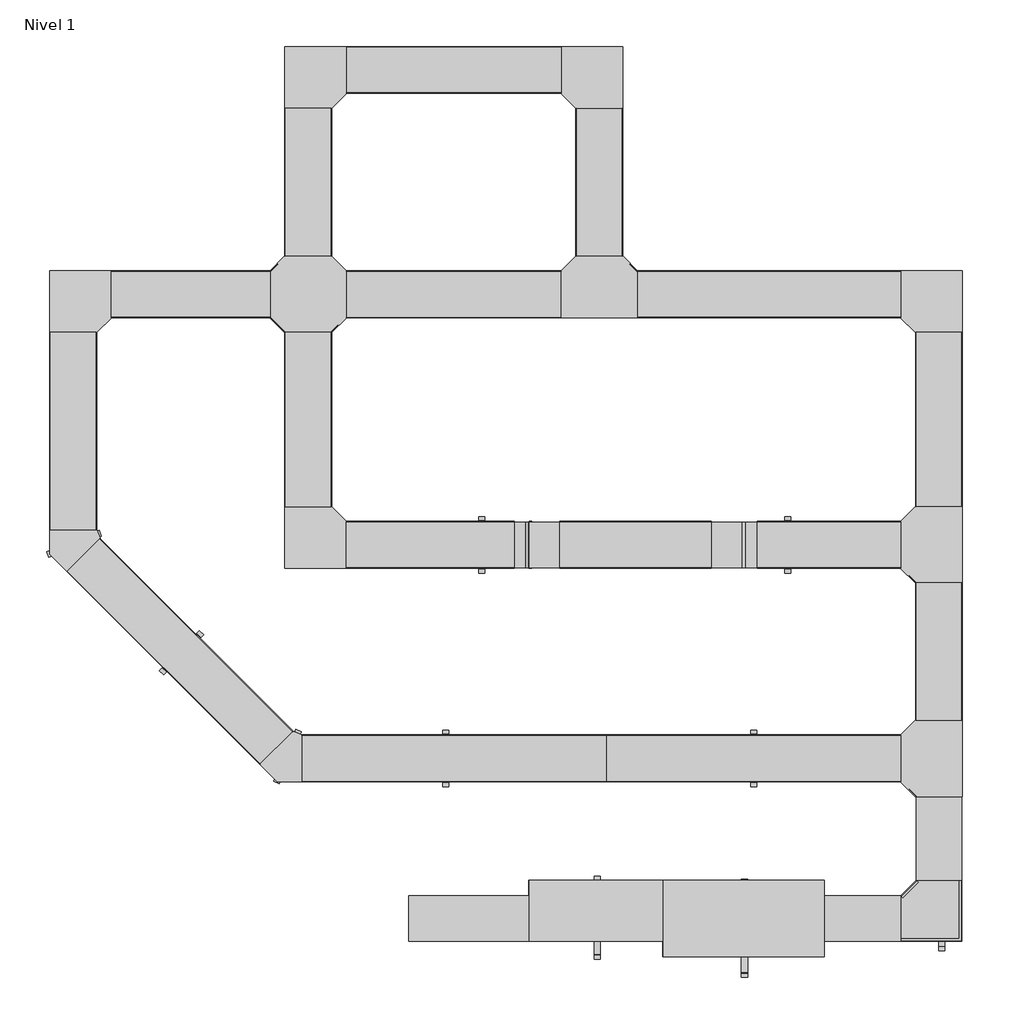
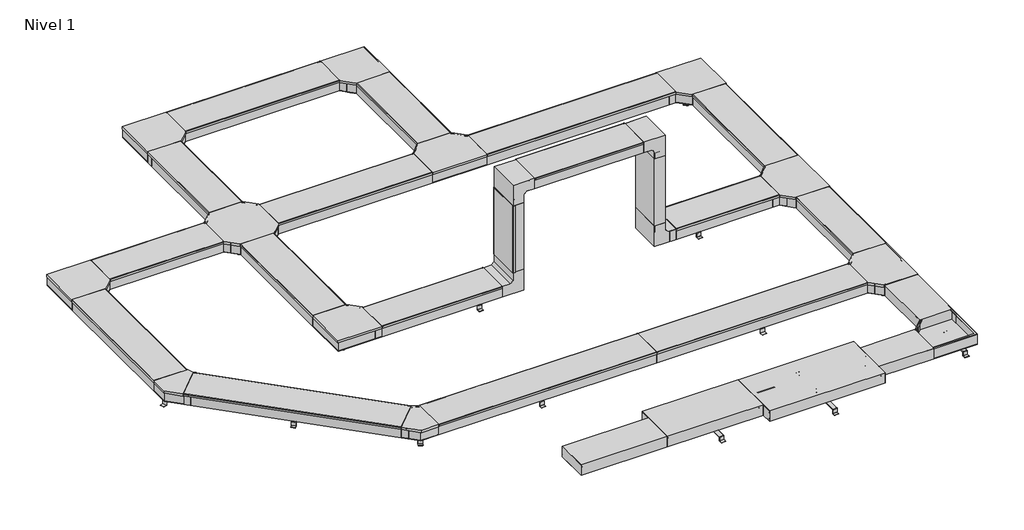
# One storey: 51 proxies, 23 cable carrier segments, 19 cable carrier fittings.
"""IFC4 building model written with IfcOpenShell, lengths in millimetres."""

from ifc_helpers import new_model, si_unit, frame, origin, place, context, project, spatial, polyline, outline, extrude, transform, mapped, element, save
from components import generic_models_886ef908, generic_models_77ba660b, generic_models_34b2c739, generic_models_44321f8a, generic_models_95577306, generic_models_282451d4, generic_models_4bbc0010, generic_models_9f40d4b4, generic_models_63b5237f, generic_models_2ab8ae52, generic_models_c6466a9b, generic_models_c4d3e10e, generic_models_18c6242b, generic_models_39329576, generic_models_28185427, generic_models_0fb2b5c2, generic_models_94ff4f47, generic_models_3f045df5, generic_models_f9c9fb11, generic_models_84cd7154, generic_models_ec9d9685, generic_models_7406f675, generic_models_717cf7ea, generic_models_6d804a78, cable_carrier_fitting_8b7974b9, cable_carrier_fitting_2a8efc73, cable_carrier_fitting_4e509324, cable_carrier_fitting_665ff240, cable_carrier_fitting_8bc6223d, cable_carrier_fitting_3787a0c5, cable_carrier_fitting_d7bdf130, cable_carrier_fitting_292abf4f

model = new_model("IFC4")

# Units and contexts
model_context = context("Model", 3, world=origin())
ifc_project = project(units=[si_unit("LENGTHUNIT", "METRE", prefix="MILLI")], contexts=[model_context])

# Site, building, storey
site = spatial("IfcSite", under=ifc_project)
building = spatial("IfcBuilding", under=site)
storey = spatial("IfcBuildingStorey", under=building, Name="Nivel 1", Elevation=0.0)

# Proxies
placement = place(None, origin())
generic_models_shape = generic_models_886ef908(model_context)
element("IfcBuildingElementProxy", 1, Name="Cable_Tray_Cover_TWT_Basorcanal : Basorcanal TWT 300", ObjectType="Cable_Tray_Cover_TWT_Basorcanal : Basorcanal TWT 300", at=placement, inside=storey, context=model_context, shape_type="MappedRepresentation", body=[
    mapped(generic_models_shape, transform((-8541.703371, -2707.1938626, 50.0), x_axis=(0.0, 1.0, 0.0), y_axis=(-1.0, 0.0, 0.0), z_axis=(0.0, 0.0, 1.0))),
])
generic_models_2_shape = generic_models_77ba660b(model_context)
element("IfcBuildingElementProxy", 2, Name="Cable_Tray_Divider_Profile_PSWT_Basorcanal : Basorcanal PSWT 100", ObjectType="Cable_Tray_Divider_Profile_PSWT_Basorcanal : Basorcanal PSWT 100", at=placement, inside=storey, context=model_context, shape_type="MappedRepresentation", body=[
    mapped(generic_models_2_shape, transform((-7121.7787219, -3730.0234794, -49.9762913), x_axis=(0.0, 1.0, 0.0), y_axis=(-1.0, 0.0, 0.0), z_axis=(0.0, 0.0, 1.0))),
])
generic_models_3_shape = generic_models_34b2c739(model_context)
element("IfcBuildingElementProxy", 3, Name="Cable_Tray_FinalCover_TFWT_Basorcanal : Basorcanal TFWT 300x100", ObjectType="Cable_Tray_FinalCover_TFWT_Basorcanal : Basorcanal TFWT 300x100", at=placement, inside=storey, context=model_context, shape_type="MappedRepresentation", body=[
    mapped(generic_models_3_shape, transform((-9839.9965544, -3758.1045835, 0.0237087), x_axis=(0.0, 1.0, 0.0), y_axis=(0.0, 0.0, -1.0), z_axis=(-1.0, 0.0, 0.0))),
])
generic_models_4_shape = generic_models_44321f8a(model_context)
element("IfcBuildingElementProxy", 4, Name="Cable_Tray_Support_SV_Basorsupport : Basorsupport SV 300", ObjectType="Cable_Tray_Support_SV_Basorsupport : Basorsupport SV 300", at=placement, inside=storey, context=model_context, shape_type="MappedRepresentation", body=[
    mapped(generic_models_4_shape, transform((-7574.75615, -2707.1939339, -50.0), x_axis=(0.0, 1.0, 0.0), y_axis=(1.0, 0.0, 0.0), z_axis=(0.0, 0.0, -1.0))),
])
element("IfcBuildingElementProxy", 5, Name="Cable_Tray_Support_SV_Basorsupport : Basorsupport SV 300", ObjectType="Cable_Tray_Support_SV_Basorsupport : Basorsupport SV 300", at=placement, inside=storey, context=model_context, shape_type="MappedRepresentation", body=[
    mapped(generic_models_4_shape, transform((-12038.7811105, -1297.778645, -49.9612725), x_axis=(0.9271838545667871, 0.3746065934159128, 0.0), y_axis=(0.3746065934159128, -0.9271838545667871, 0.0), z_axis=(0.0, 0.0, -1.0))),
])
element("IfcBuildingElementProxy", 6, Name="Cable_Tray_Support_SV_Basorsupport : Basorsupport SV 300", ObjectType="Cable_Tray_Support_SV_Basorsupport : Basorsupport SV 300", at=placement, inside=storey, context=model_context, shape_type="MappedRepresentation", body=[
    mapped(generic_models_4_shape, transform((-10636.8845347, -2695.1077531, -50.0), x_axis=(-0.3907311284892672, -0.9205048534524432, 0.0), y_axis=(-0.9205048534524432, 0.3907311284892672, 0.0), z_axis=(0.0, 0.0, -1.0))),
])
element("IfcBuildingElementProxy", 7, Name="Cable_Tray_Support_SV_Basorsupport : Basorsupport SV 300", ObjectType="Cable_Tray_Support_SV_Basorsupport : Basorsupport SV 300", at=placement, inside=storey, context=model_context, shape_type="MappedRepresentation", body=[
    mapped(generic_models_4_shape, transform((-8588.3507544, 350.3183281, -49.9523171), x_axis=(0.999999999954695, 1.2811934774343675e-10, 9.518941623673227e-06), y_axis=(0.0, -0.9999999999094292, 1.3458912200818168e-05), z_axis=(9.518941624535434e-06, -1.3458912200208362e-05, -0.9999999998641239))),
])
element("IfcBuildingElementProxy", 8, Name="Cable_Tray_Support_SV_Basorsupport : Basorsupport SV 300", ObjectType="Cable_Tray_Support_SV_Basorsupport : Basorsupport SV 300", at=placement, inside=storey, context=model_context, shape_type="MappedRepresentation", body=[
    mapped(generic_models_4_shape, transform((-8620.9537542, 1781.8174496, -49.9715835), x_axis=(0.7071067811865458, 0.7071067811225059, -9.516888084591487e-06), y_axis=(0.7071067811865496, -0.7071067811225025, 9.51688808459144e-06), z_axis=(0.0, -1.3458912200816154e-05, -0.9999999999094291))),
])
element("IfcBuildingElementProxy", 9, Name="Cable_Tray_Support_SV_Basorsupport : Basorsupport SV 300", ObjectType="Cable_Tray_Support_SV_Basorsupport : Basorsupport SV 300", at=placement, inside=storey, context=model_context, shape_type="MappedRepresentation", body=[
    mapped(generic_models_4_shape, transform((-10454.7397424, 1782.4752404, -49.9730502), x_axis=(-0.7071067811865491, 0.707106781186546, 0.0), y_axis=(0.707106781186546, 0.7071067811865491, 0.0), z_axis=(0.0, 0.0, -1.0))),
])
element("IfcBuildingElementProxy", 10, Name="Cable_Tray_Support_SV_Basorsupport : Basorsupport SV 300", ObjectType="Cable_Tray_Support_SV_Basorsupport : Basorsupport SV 300", at=placement, inside=storey, context=model_context, shape_type="MappedRepresentation", body=[
    mapped(generic_models_4_shape, transform((-11998.3412792, 295.9394169, -50.0001797), x_axis=(-0.7071067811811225, 0.707106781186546, 2.770290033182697e-06), y_axis=(0.7071067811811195, 0.7071067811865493, -2.770290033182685e-06), z_axis=(-3.917781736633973e-06, 0.0, -0.9999999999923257))),
])
element("IfcBuildingElementProxy", 11, Name="Cable_Tray_Support_SV_Basorsupport : Basorsupport SV 300", ObjectType="Cable_Tray_Support_SV_Basorsupport : Basorsupport SV 300", at=placement, inside=storey, context=model_context, shape_type="MappedRepresentation", body=[
    mapped(generic_models_4_shape, transform((-7350.1252694, -1304.6405378, -49.9153599), x_axis=(0.0, -0.9999999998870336, -1.5031061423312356e-05), y_axis=(-1.0, 0.0, 0.0), z_axis=(0.0, 1.5031061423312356e-05, -0.9999999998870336))),
])
element("IfcBuildingElementProxy", 12, Name="Cable_Tray_Support_SV_Basorsupport : Basorsupport SV 300", ObjectType="Cable_Tray_Support_SV_Basorsupport : Basorsupport SV 300", at=placement, inside=storey, context=model_context, shape_type="MappedRepresentation", body=[
    mapped(generic_models_4_shape, transform((-6398.3977593, 294.8393651, -49.9316497), x_axis=(-0.7071067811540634, -0.7071067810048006, -1.7405991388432e-05), y_axis=(-0.707106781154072, 0.707106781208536, 3.851139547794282e-06), z_axis=(9.584727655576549e-06, 1.5031061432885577e-05, -0.9999999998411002))),
])
element("IfcBuildingElementProxy", 13, Name="Cable_Tray_Support_SV_Basorsupport : Basorsupport SV 300", ObjectType="Cable_Tray_Support_SV_Basorsupport : Basorsupport SV 300", at=placement, inside=storey, context=model_context, shape_type="MappedRepresentation", body=[
    mapped(generic_models_4_shape, transform((-6395.8500617, -2681.1000795, -51.9967904), x_axis=(0.7071067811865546, -0.7071067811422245, -7.916594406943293e-06), y_axis=(-0.7071067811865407, -0.7071067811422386, -7.916594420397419e-06), z_axis=(0.0, 1.1195755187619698e-05, -0.9999999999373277))),
])
element("IfcBuildingElementProxy", 14, Name="Cable_Tray_Support_SV_Basorsupport : Basorsupport SV 300", ObjectType="Cable_Tray_Support_SV_Basorsupport : Basorsupport SV 300", at=placement, inside=storey, context=model_context, shape_type="MappedRepresentation", body=[
    mapped(generic_models_4_shape, transform((-10455.1060974, -1269.5960354, -49.9730502), x_axis=(-0.707106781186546, -0.7071067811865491, 0.0), y_axis=(-0.7071067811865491, 0.707106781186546, 0.0), z_axis=(0.0, 0.0, -1.0))),
])
element("IfcBuildingElementProxy", 15, Name="Cable_Tray_Support_SV_Basorsupport : Basorsupport SV 300", ObjectType="Cable_Tray_Support_SV_Basorsupport : Basorsupport SV 300", at=placement, inside=storey, context=model_context, shape_type="MappedRepresentation", body=[
    mapped(generic_models_4_shape, transform((-6355.3907563, -1309.2919256, -49.9205519), x_axis=(0.0, 0.9999999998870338, 1.5031061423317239e-05), y_axis=(0.9999999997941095, 3.0502279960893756e-10, -2.029241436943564e-05), z_axis=(-2.029241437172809e-05, 1.503106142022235e-05, -0.9999999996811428))),
])
element("IfcBuildingElementProxy", 16, Name="Cable_Tray_Support_SV_Basorsupport : Basorsupport SV 300", ObjectType="Cable_Tray_Support_SV_Basorsupport : Basorsupport SV 300", at=placement, inside=storey, context=model_context, shape_type="MappedRepresentation", body=[
    mapped(generic_models_4_shape, transform((-10497.2169481, 343.6637615, -49.9729709), x_axis=(0.0, -1.0000000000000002, 0.0), y_axis=(-0.9999999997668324, 0.0, -2.1594818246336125e-05), z_axis=(2.1594818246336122e-05, 0.0, -0.9999999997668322))),
])
element("IfcBuildingElementProxy", 17, Name="Cable_Tray_Support_SV_Basorsupport : Basorsupport SV 300", ObjectType="Cable_Tray_Support_SV_Basorsupport : Basorsupport SV 300", at=placement, inside=storey, context=model_context, shape_type="MappedRepresentation", body=[
    mapped(generic_models_4_shape, transform((-9360.1820856, -1304.6412884, -49.9730502), x_axis=(0.0, 1.0, 0.0), y_axis=(1.0, 0.0, 0.0), z_axis=(0.0, 0.0, -1.0))),
])
element("IfcBuildingElementProxy", 18, Name="Cable_Tray_Support_SV_Basorsupport : Basorsupport SV 300", ObjectType="Cable_Tray_Support_SV_Basorsupport : Basorsupport SV 300", at=placement, inside=storey, context=model_context, shape_type="MappedRepresentation", body=[
    mapped(generic_models_4_shape, transform((-9597.9930642, -2706.7320603, -50.0), x_axis=(0.0, 1.0, 0.0), y_axis=(1.0, 0.0, 0.0), z_axis=(0.0, 0.0, -1.0))),
])
element("IfcBuildingElementProxy", 19, Name="Cable_Tray_Support_SV_Basorsupport : Basorsupport SV 300", ObjectType="Cable_Tray_Support_SV_Basorsupport : Basorsupport SV 300", at=placement, inside=storey, context=model_context, shape_type="MappedRepresentation", body=[
    mapped(generic_models_4_shape, transform((-11331.69498, -2012.6822275, -49.9612725), x_axis=(-0.7071067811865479, -0.7071067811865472, 0.0), y_axis=(-0.7071067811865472, 0.7071067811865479, 0.0), z_axis=(0.0, 0.0, -1.0))),
])
element("IfcBuildingElementProxy", 20, Name="Cable_Tray_Support_SV_Basorsupport : Basorsupport SV 300", ObjectType="Cable_Tray_Support_SV_Basorsupport : Basorsupport SV 300", at=placement, inside=storey, context=model_context, shape_type="MappedRepresentation", body=[
    mapped(generic_models_4_shape, transform((-6339.4606524, -3784.0082348, -49.958004), x_axis=(0.0, -1.0, 0.0), y_axis=(-0.9999999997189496, 0.0, -2.3708666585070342e-05), z_axis=(2.3708666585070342e-05, 0.0, -0.9999999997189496))),
])
generic_models_5_shape = generic_models_95577306(model_context)
element("IfcBuildingElementProxy", 21, Name="Cable_Tray_Support_SV_Basorsupport : Basorsupport SV 400", ObjectType="Cable_Tray_Support_SV_Basorsupport : Basorsupport SV 400", at=placement, inside=storey, context=model_context, shape_type="MappedRepresentation", body=[
    mapped(generic_models_5_shape, transform((-8602.314625, -3752.5055585, -49.9762913), x_axis=(0.0, -1.0, 0.0), y_axis=(-1.0, 0.0, 0.0), z_axis=(0.0, 0.0, -1.0))),
])
generic_models_6_shape = generic_models_282451d4(model_context)
element("IfcBuildingElementProxy", 22, Name="Cable_Tray_Support_SV_Basorsupport : Basorsupport SV 500", ObjectType="Cable_Tray_Support_SV_Basorsupport : Basorsupport SV 500", at=placement, inside=storey, context=model_context, shape_type="MappedRepresentation", body=[
    mapped(generic_models_6_shape, transform((-7635.2115297, -3823.5680524, -49.9762913), x_axis=(0.0, -1.0, 0.0), y_axis=(-1.0, 0.0, 0.0), z_axis=(0.0, 0.0, -1.0))),
])
generic_models_7_shape = generic_models_4bbc0010(model_context)
element("IfcBuildingElementProxy", 23, Name="Horizontal Bend_Cover_TCPWT_Basorcanal : Basorcanal TCPWT 300", ObjectType="Horizontal Bend_Cover_TCPWT_Basorcanal : Basorcanal TCPWT 300", at=placement, inside=storey, context=model_context, shape_type="MappedRepresentation", body=[
    mapped(generic_models_7_shape, transform((-8738.3512303, 1564.0763466, 50.031347), x_axis=(0.0, 0.9999999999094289, -1.3458912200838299e-05), y_axis=(-1.0, 0.0, 0.0), z_axis=(0.0, 1.3458912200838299e-05, 0.9999999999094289))),
])
element("IfcBuildingElementProxy", 24, Name="Horizontal Bend_Cover_TCPWT_Basorcanal : Basorcanal TCPWT 300", ObjectType="Horizontal Bend_Cover_TCPWT_Basorcanal : Basorcanal TCPWT 300", at=placement, inside=storey, context=model_context, shape_type="MappedRepresentation", body=[
    mapped(generic_models_7_shape, transform((-10250.8907203, 1664.0756733, 50.0269498), x_axis=(-1.0, 0.0, 0.0), y_axis=(0.0, -1.0, 0.0), z_axis=(0.0, 0.0, 1.0))),
])
element("IfcBuildingElementProxy", 25, Name="Horizontal Bend_Cover_TCPWT_Basorcanal : Basorcanal TCPWT 300", ObjectType="Horizontal Bend_Cover_TCPWT_Basorcanal : Basorcanal TCPWT 300", at=placement, inside=storey, context=model_context, shape_type="MappedRepresentation", body=[
    mapped(generic_models_7_shape, transform((-6507.8039157, 90.3182495, 50.0642275), x_axis=(0.0, 0.9999999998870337, 1.5031061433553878e-05), y_axis=(-0.9999999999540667, 1.44070360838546e-10, -9.58472765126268e-06), z_axis=(-9.584727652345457e-06, -1.5031061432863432e-05, 0.9999999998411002))),
])
element("IfcBuildingElementProxy", 26, Name="Horizontal Bend_Cover_TCPWT_Basorcanal : Basorcanal TCPWT 300", ObjectType="Horizontal Bend_Cover_TCPWT_Basorcanal : Basorcanal TCPWT 300", at=placement, inside=storey, context=model_context, shape_type="MappedRepresentation", body=[
    mapped(generic_models_7_shape, transform((-10350.8907203, -1054.6412884, 50.0269498), x_axis=(0.0, -1.0, 0.0), y_axis=(1.0, 0.0, 0.0), z_axis=(0.0, 0.0, 1.0))),
])
element("IfcBuildingElementProxy", 27, Name="Horizontal Bend_Cover_TCPWT_Basorcanal : Basorcanal TCPWT 300", ObjectType="Horizontal Bend_Cover_TCPWT_Basorcanal : Basorcanal TCPWT 300", at=placement, inside=storey, context=model_context, shape_type="MappedRepresentation", body=[
    mapped(generic_models_7_shape, transform((-11794.2214184, 190.3190011, 49.9990206), x_axis=(-0.9999999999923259, 0.0, 3.917781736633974e-06), y_axis=(0.0, -1.0000000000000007, 0.0), z_axis=(3.917781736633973e-06, 0.0, 0.9999999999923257))),
])
generic_models_8_shape = generic_models_9f40d4b4(model_context)
element("IfcBuildingElementProxy", 28, Name="Horizontal Tee_Cover_TTEWT_Basorcanal : Basorcanal TTEWT 300", ObjectType="Horizontal Tee_Cover_TTEWT_Basorcanal : Basorcanal TTEWT 300", at=placement, inside=storey, context=model_context, shape_type="MappedRepresentation", body=[
    mapped(generic_models_8_shape, transform((-8838.3517062, 490.3197453, 50.0435616), x_axis=(0.9999999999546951, 0.0, 9.518941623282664e-06), y_axis=(1.416970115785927e-10, 0.9999999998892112, -1.4885509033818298e-05), z_axis=(-9.518941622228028e-06, 1.488550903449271e-05, 0.9999999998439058))),
])
element("IfcBuildingElementProxy", 29, Name="Horizontal Tee_Cover_TTEWT_Basorcanal : Basorcanal TTEWT 300", ObjectType="Horizontal Tee_Cover_TTEWT_Basorcanal : Basorcanal TTEWT 300", at=placement, inside=storey, context=model_context, shape_type="MappedRepresentation", body=[
    mapped(generic_models_8_shape, transform((-6507.8024253, -1554.6420408, 50.0788531), x_axis=(0.0, 0.9999999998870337, 1.5031061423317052e-05), y_axis=(-0.9999999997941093, -3.050136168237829e-10, 2.0292414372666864e-05), z_axis=(2.029241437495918e-05, -1.503106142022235e-05, 0.9999999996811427))),
])
element("IfcBuildingElementProxy", 30, Name="Horizontal Tee_Cover_TTEWT_Basorcanal : Basorcanal TTEWT 300", ObjectType="Horizontal Tee_Cover_TTEWT_Basorcanal : Basorcanal TTEWT 300", at=placement, inside=storey, context=model_context, shape_type="MappedRepresentation", body=[
    mapped(generic_models_8_shape, transform((-6507.8033703, -2957.194686, 50.0549362), x_axis=(0.0, 0.9999999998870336, 1.5031061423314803e-05), y_axis=(-0.999999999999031, -2.0920348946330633e-11, 1.3921041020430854e-06), z_axis=(1.3921041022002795e-06, -1.5031061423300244e-05, 0.9999999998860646))),
])
generic_models_9_shape = generic_models_63b5237f(model_context)
element("IfcBuildingElementProxy", 31, Name="Horizontal Cross_Cover_TCRWT_Basorcanal : Basorcanal TCRWT 300", ObjectType="Horizontal Cross_Cover_TCRWT_Basorcanal : Basorcanal TCRWT 300", at=placement, inside=storey, context=model_context, shape_type="MappedRepresentation", body=[
    mapped(generic_models_9_shape, transform((-10250.8918001, 590.3190011, 50.0323485), x_axis=(0.0, -1.0000000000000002, 0.0), y_axis=(0.9999999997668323, 0.0, 2.1594818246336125e-05), z_axis=(-2.1594818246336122e-05, 0.0, 0.9999999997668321))),
])
generic_models_10_shape = generic_models_2ab8ae52(model_context)
element("IfcBuildingElementProxy", 32, Name="Horizontal Bend_Cover_TCPWT45_Basorcanal : Basorcanal TCPWT45 300", ObjectType="Horizontal Bend_Cover_TCPWT45_Basorcanal : Basorcanal TCPWT45 300", at=placement, inside=storey, context=model_context, shape_type="MappedRepresentation", body=[
    mapped(generic_models_10_shape, transform((-11894.2216592, -1204.68107, 50.0387275), x_axis=(0.0, -0.9999999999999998, 0.0), y_axis=(0.9999999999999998, 0.0, 0.0), z_axis=(0.0, 0.0, 1.0))),
])
element("IfcBuildingElementProxy", 33, Name="Horizontal Bend_Cover_TCPWT45_Basorcanal : Basorcanal TCPWT45 300", ObjectType="Horizontal Bend_Cover_TCPWT45_Basorcanal : Basorcanal TCPWT45 300", at=placement, inside=storey, context=model_context, shape_type="MappedRepresentation", body=[
    mapped(generic_models_10_shape, transform((-10602.7139173, -2531.9247432, 50.0), x_axis=(0.7071067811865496, -0.7071067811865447, 0.0), y_axis=(0.7071067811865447, 0.7071067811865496, 0.0), z_axis=(0.0, 0.0, 1.0))),
])
generic_models_11_shape = generic_models_c6466a9b(model_context)
element("IfcBuildingElementProxy", 34, Name="Cable_Tray_Cover_TWT_Basorcanal : Basorcanal TWT 300", ObjectType="Cable_Tray_Cover_TWT_Basorcanal : Basorcanal TWT 300", at=placement, inside=storey, context=model_context, shape_type="MappedRepresentation", body=[
    mapped(generic_models_11_shape, transform((-6357.8039192, -1054.6817509, 50.0833241), x_axis=(0.9999999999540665, -1.4407037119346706e-10, 9.584727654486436e-06), y_axis=(0.0, 0.9999999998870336, 1.5031061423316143e-05), z_axis=(-9.584727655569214e-06, -1.5031061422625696e-05, 0.9999999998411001))),
])
element("IfcBuildingElementProxy", 35, Name="Cable_Tray_Cover_TWT_Basorcanal : Basorcanal TWT 300", ObjectType="Cable_Tray_Cover_TWT_Basorcanal : Basorcanal TWT 300", at=placement, inside=storey, context=model_context, shape_type="MappedRepresentation", body=[
    mapped(generic_models_11_shape, transform((-10500.8918, -1054.6412884, 50.0269498), x_axis=(0.999999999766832, 0.0, 2.1594818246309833e-05), y_axis=(0.0, 1.0, 0.0), z_axis=(-2.1594818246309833e-05, 0.0, 0.999999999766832))),
])
generic_models_12_shape = generic_models_c4d3e10e(model_context)
element("IfcBuildingElementProxy", 36, Name="Cable_Tray_Cover_TWT_Basorcanal : Basorcanal TWT 300", ObjectType="Cable_Tray_Cover_TWT_Basorcanal : Basorcanal TWT 300", at=placement, inside=storey, context=model_context, shape_type="MappedRepresentation", body=[
    mapped(generic_models_12_shape, transform((-10500.8918, 590.2756733, 50.0269498), x_axis=(0.999999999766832, 0.0, 2.1594818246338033e-05), y_axis=(0.0, 1.0, 0.0), z_axis=(-2.1594818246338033e-05, 0.0, 0.999999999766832))),
])
element("IfcBuildingElementProxy", 37, Name="Cable_Tray_Cover_TWT_Basorcanal : Basorcanal TWT 300", ObjectType="Cable_Tray_Cover_TWT_Basorcanal : Basorcanal TWT 300", at=placement, inside=storey, context=model_context, shape_type="MappedRepresentation", body=[
    mapped(generic_models_12_shape, transform((-8588.3517062, 1564.0763466, 50.031347), x_axis=(-0.999999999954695, -1.2810985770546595e-10, -9.518941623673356e-06), y_axis=(0.0, -0.9999999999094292, 1.3458912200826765e-05), z_axis=(-9.518941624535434e-06, 1.345891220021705e-05, 0.9999999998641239))),
])
generic_models_13_shape = generic_models_18c6242b(model_context)
element("IfcBuildingElementProxy", 38, Name="Cable_Tray_Cover_TWT_Basorcanal : Basorcanal TWT 300", ObjectType="Cable_Tray_Cover_TWT_Basorcanal : Basorcanal TWT 300", at=placement, inside=storey, context=model_context, shape_type="MappedRepresentation", body=[
    mapped(generic_models_13_shape, transform((-11794.2227963, 340.3190011, 49.9990205), x_axis=(0.0, -1.0, 0.0), y_axis=(0.999999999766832, 0.0, 2.159481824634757e-05), z_axis=(-2.159481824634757e-05, 0.0, 0.999999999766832))),
])
generic_models_14_shape = generic_models_39329576(model_context)
element("IfcBuildingElementProxy", 39, Name="Cable_Tray_Cover_TWT_Basorcanal : Basorcanal TWT 300", ObjectType="Cable_Tray_Cover_TWT_Basorcanal : Basorcanal TWT 300", at=placement, inside=storey, context=model_context, shape_type="MappedRepresentation", body=[
    mapped(generic_models_14_shape, transform((-8838.3517062, 340.3190011, 50.0457944), x_axis=(0.0, 1.0, 0.0), y_axis=(-0.9999999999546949, 0.0, -9.51894161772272e-06), z_axis=(-9.51894161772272e-06, 0.0, 0.9999999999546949))),
])
element("IfcBuildingElementProxy", 40, Name="Cable_Tray_Cover_TWT_Basorcanal : Basorcanal TWT 300", ObjectType="Cable_Tray_Cover_TWT_Basorcanal : Basorcanal TWT 300", at=placement, inside=storey, context=model_context, shape_type="MappedRepresentation", body=[
    mapped(generic_models_14_shape, transform((-10250.8512669, 1814.0756733, 50.0269498), x_axis=(2.400334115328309e-10, -1.0, 0.0), y_axis=(0.9999999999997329, 2.400334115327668e-10, 7.309601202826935e-07), z_axis=(-7.309601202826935e-07, 0.0, 0.9999999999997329))),
])
generic_models_15_shape = generic_models_28185427(model_context)
element("IfcBuildingElementProxy", 41, Name="Cable_Tray_Cover_TWT_Basorcanal : Basorcanal TWT 300", ObjectType="Cable_Tray_Cover_TWT_Basorcanal : Basorcanal TWT 300", at=placement, inside=storey, context=model_context, shape_type="MappedRepresentation", body=[
    mapped(generic_models_15_shape, transform((-7552.064673, -1304.6420409, 50.0846401), x_axis=(0.0, -0.9999999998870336, -1.5031061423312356e-05), y_axis=(1.0, 0.0, 0.0), z_axis=(0.0, -1.5031061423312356e-05, 0.9999999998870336))),
])
generic_models_16_shape = generic_models_0fb2b5c2(model_context)
element("IfcBuildingElementProxy", 42, Name="Cable_Tray_Cover_TWT_Basorcanal : Basorcanal TWT 300", ObjectType="Cable_Tray_Cover_TWT_Basorcanal : Basorcanal TWT 300", at=placement, inside=storey, context=model_context, shape_type="MappedRepresentation", body=[
    mapped(generic_models_16_shape, transform((-8338.3039158, 340.3182495, 50.0505543), x_axis=(1.4307518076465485e-10, -0.9999999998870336, -1.503106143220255e-05), y_axis=(0.9999999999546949, 0.0, 9.518941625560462e-06), z_axis=(-9.51894162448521e-06, -1.503106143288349e-05, 0.9999999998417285))),
])
generic_models_17_shape = generic_models_94ff4f47(model_context)
element("IfcBuildingElementProxy", 43, Name="Cable_Tray_Cover_TWT_Basorcanal : Basorcanal TWT 300", ObjectType="Cable_Tray_Cover_TWT_Basorcanal : Basorcanal TWT 300", at=placement, inside=storey, context=model_context, shape_type="MappedRepresentation", body=[
    mapped(generic_models_17_shape, transform((-10250.8907203, -1304.6412884, 50.0269498), x_axis=(0.0, -1.0, 0.0), y_axis=(1.0, 0.0, 0.0), z_axis=(0.0, 0.0, 1.0))),
])
generic_models_18_shape = generic_models_3f045df5(model_context)
element("IfcBuildingElementProxy", 44, Name="Cable_Tray_Cover_TWT_Basorcanal : Basorcanal TWT 300", ObjectType="Cable_Tray_Cover_TWT_Basorcanal : Basorcanal TWT 300", at=placement, inside=storey, context=model_context, shape_type="MappedRepresentation", body=[
    mapped(generic_models_18_shape, transform((-7852.064673, -1304.6412884, 996.5079781), x_axis=(0.0, 1.0, 0.0), y_axis=(-1.0, 0.0, 0.0), z_axis=(0.0, 0.0, 1.0))),
])
generic_models_19_shape = generic_models_f9c9fb11(model_context)
element("IfcBuildingElementProxy", 45, Name="JUWT H100_Juction-Basorcanal : Basorcanal JUWT 100", ObjectType="JUWT H100_Juction-Basorcanal : Basorcanal JUWT 100", at=placement, inside=storey, context=model_context, shape_type="MappedRepresentation", body=[
    mapped(generic_models_19_shape, transform((-8542.1115916, -2562.1938626, -47.0), x_axis=(0.0, 1.0, 0.0), y_axis=(-1.0, 0.0, 0.0), z_axis=(0.0, 0.0, 1.0))),
])
element("IfcBuildingElementProxy", 46, Name="JUWT H100_Juction-Basorcanal : Basorcanal JUWT 100", ObjectType="JUWT H100_Juction-Basorcanal : Basorcanal JUWT 100", at=placement, inside=storey, context=model_context, shape_type="MappedRepresentation", body=[
    mapped(generic_models_19_shape, transform((-8542.1115916, -2854.1938626, -47.0), x_axis=(0.0, 1.0, 0.0), y_axis=(-1.0, 0.0, 0.0), z_axis=(0.0, 0.0, 1.0))),
])
generic_models_20_shape = generic_models_84cd7154(model_context)
element("IfcBuildingElementProxy", 47, Name="Cable_Tray_Cover_TWT_Basorcanal : Basorcanal TWT 300", ObjectType="Cable_Tray_Cover_TWT_Basorcanal : Basorcanal TWT 300", at=placement, inside=storey, context=model_context, shape_type="MappedRepresentation", body=[
    mapped(generic_models_20_shape, transform((-6357.80344, -2457.2420407, 50.0622422), x_axis=(1.0, 0.0, 0.0), y_axis=(0.0, 0.9999999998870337, 1.5031061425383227e-05), z_axis=(0.0, -1.5031061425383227e-05, 0.9999999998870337))),
])
generic_models_21_shape = generic_models_ec9d9685(model_context)
element("IfcBuildingElementProxy", 48, Name="Cable_Tray_Cover_TWT_Basorcanal : Basorcanal TWT 300", ObjectType="Cable_Tray_Cover_TWT_Basorcanal : Basorcanal TWT 300", at=placement, inside=storey, context=model_context, shape_type="MappedRepresentation", body=[
    mapped(generic_models_21_shape, transform((-6607.803371, -2707.1938626, 50.0), x_axis=(0.0, 1.0, 0.0), y_axis=(-1.0, 0.0, 0.0), z_axis=(0.0, 0.0, 1.0))),
])
generic_models_22_shape = generic_models_7406f675(model_context)
element("IfcBuildingElementProxy", 49, Name="Cable_Tray_Cover_TWT_Basorcanal : Basorcanal TWT 300", ObjectType="Cable_Tray_Cover_TWT_Basorcanal : Basorcanal TWT 300", at=placement, inside=storey, context=model_context, shape_type="MappedRepresentation", body=[
    mapped(generic_models_22_shape, transform((-12044.2214184, -1204.6809989, 50.0), x_axis=(0.9999999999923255, 0.0, -3.91778173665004e-06), y_axis=(0.0, 1.0, 0.0), z_axis=(3.91778173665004e-06, 0.0, 0.9999999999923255))),
])
generic_models_23_shape = generic_models_717cf7ea(model_context)
element("IfcBuildingElementProxy", 50, Name="Cable_Tray_Cover_TWT_Basorcanal : Basorcanal TWT 300", ObjectType="Cable_Tray_Cover_TWT_Basorcanal : Basorcanal TWT 300", at=placement, inside=storey, context=model_context, shape_type="MappedRepresentation", body=[
    mapped(generic_models_23_shape, transform((-10708.7799345, -2637.9907604, 50.0387275), x_axis=(0.7071067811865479, 0.7071067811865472, 0.0), y_axis=(-0.7071067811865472, 0.7071067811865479, 0.0), z_axis=(0.0, 0.0, 1.0))),
])
generic_models_24_shape = generic_models_6d804a78(model_context)
element("IfcBuildingElementProxy", 51, Name="Cable_Tray_Cover_TWT_Basorcanal : Basorcanal TWT 300", ObjectType="Cable_Tray_Cover_TWT_Basorcanal : Basorcanal TWT 300", at=placement, inside=storey, context=model_context, shape_type="MappedRepresentation", body=[
    mapped(generic_models_24_shape, transform((-9047.464673, -1304.6412884, 150.0), x_axis=(0.0, -1.0, 0.0), y_axis=(0.0, 0.0, 1.0), z_axis=(-1.0, 0.0, 0.0))),
])

# Cable carrier fittings
cable_carrier_fitting_shape = cable_carrier_fitting_8b7974b9(model_context)
element("IfcCableCarrierFitting", 52, ObjectType="REWT_Angle Reducer-Basorcanal : Basorcanal REWT 100x100", at=placement, inside=storey, context=model_context, shape_type="MappedRepresentation", body=[
    mapped(cable_carrier_fitting_shape, transform((-9050.7965544, -3708.1045835, 0.0237087), x_axis=(-1.0, 0.0, 0.0), y_axis=(0.0, -1.0, 0.0), z_axis=(0.0, 0.0, 1.0))),
])
cable_carrier_fitting_2_shape = cable_carrier_fitting_2a8efc73(model_context)
element("IfcCableCarrierFitting", 53, ObjectType="CCWT_Vertical_Bend-Basorcanal : Basorcanal CCWT", at=placement, inside=storey, context=model_context, shape_type="MappedRepresentation", body=[
    mapped(cable_carrier_fitting_2_shape, transform((-7702.064673, -1304.6412884, 946.5079781), x_axis=(1.0, 0.0, 0.0), y_axis=(0.0, 0.0, -1.0), z_axis=(0.0, 1.0, 0.0))),
])
element("IfcCableCarrierFitting", 54, ObjectType="CCWT_Vertical_Bend-Basorcanal : Basorcanal CCWT", at=placement, inside=storey, context=model_context, shape_type="MappedRepresentation", body=[
    mapped(cable_carrier_fitting_2_shape, transform((-7702.064673, -1304.6412888, 0.0497706), x_axis=(0.0, 0.0, -1.0), y_axis=(1.0, 0.0, 0.0), z_axis=(0.0, -1.0, 0.0))),
])
element("IfcCableCarrierFitting", 55, ObjectType="CCWT_Vertical_Bend-Basorcanal : Basorcanal CCWT", at=placement, inside=storey, context=model_context, shape_type="MappedRepresentation", body=[
    mapped(cable_carrier_fitting_2_shape, transform((-8997.464673, -1304.6412884, 946.5079781), x_axis=(-1.0, 0.0, 0.0), y_axis=(0.0, 0.0, -1.0), z_axis=(0.0, -1.0, 0.0))),
])
element("IfcCableCarrierFitting", 56, ObjectType="CCWT_Vertical_Bend-Basorcanal : Basorcanal CCWT", at=placement, inside=storey, context=model_context, shape_type="MappedRepresentation", body=[
    mapped(cable_carrier_fitting_2_shape, transform((-8997.464673, -1304.6412884, 0.0), x_axis=(0.0, 0.0, -1.0), y_axis=(-1.0, 0.0, 0.0), z_axis=(0.0, 1.0, 0.0))),
])
cable_carrier_fitting_3_shape = cable_carrier_fitting_4e509324(model_context)
element("IfcCableCarrierFitting", 57, ObjectType="CRWT_Horizontal Cross-over_Basorcanal : Basorcanal CRWT", at=placement, inside=storey, context=model_context, shape_type="MappedRepresentation", body=[
    mapped(cable_carrier_fitting_3_shape, transform((-10500.8907203, 340.3190011, 0.0269498), x_axis=(0.999999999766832, 0.0, 2.159481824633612e-05), y_axis=(0.0, 1.0, 0.0), z_axis=(-2.159481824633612e-05, 0.0, 0.999999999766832))),
])
cable_carrier_fitting_4_shape = cable_carrier_fitting_665ff240(model_context)
element("IfcCableCarrierFitting", 58, ObjectType="CPWT_Horizontal Bend_Basorcanal : Basorcanal CPWT", at=placement, inside=storey, context=model_context, shape_type="MappedRepresentation", body=[
    mapped(cable_carrier_fitting_4_shape, transform((-10500.8907203, 1814.0756733, 0.0269498), x_axis=(0.0, 1.0, 0.0), y_axis=(-1.0, 0.0, 0.0), z_axis=(0.0, 0.0, 1.0))),
])
element("IfcCableCarrierFitting", 59, ObjectType="CPWT_Horizontal Bend_Basorcanal : Basorcanal CPWT", at=placement, inside=storey, context=model_context, shape_type="MappedRepresentation", body=[
    mapped(cable_carrier_fitting_4_shape, transform((-10500.8907203, -1304.6412884, 0.0269498), x_axis=(-1.0, 0.0, 0.0), y_axis=(0.0, -1.0, 0.0), z_axis=(0.0, 0.0, 1.0))),
])
element("IfcCableCarrierFitting", 60, ObjectType="CPWT_Horizontal Bend_Basorcanal : Basorcanal CPWT", at=placement, inside=storey, context=model_context, shape_type="MappedRepresentation", body=[
    mapped(cable_carrier_fitting_4_shape, transform((-12044.2216143, 340.3190011, 0.0), x_axis=(0.0, 1.0, 0.0), y_axis=(-0.9999999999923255, 0.0, 3.917781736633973e-06), z_axis=(3.917781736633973e-06, 0.0, 0.9999999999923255))),
])
element("IfcCableCarrierFitting", 61, ObjectType="CPWT_Horizontal Bend_Basorcanal : Basorcanal CPWT", at=placement, inside=storey, context=model_context, shape_type="MappedRepresentation", body=[
    mapped(cable_carrier_fitting_4_shape, transform((-6357.8034399, 340.319001, 0.069423), x_axis=(0.9999999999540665, -1.4406863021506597e-10, 9.584727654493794e-06), y_axis=(0.0, 0.9999999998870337, 1.5031061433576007e-05), z_axis=(-9.584727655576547e-06, -1.5031061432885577e-05, 0.9999999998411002))),
])
element("IfcCableCarrierFitting", 62, ObjectType="CPWT_Horizontal Bend_Basorcanal : Basorcanal CPWT", at=placement, inside=storey, context=model_context, shape_type="MappedRepresentation", body=[
    mapped(cable_carrier_fitting_4_shape, transform((-8588.3512303, 1814.0756737, 0.0279823), x_axis=(1.0, 0.0, 0.0), y_axis=(0.0, 0.9999999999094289, -1.3458912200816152e-05), z_axis=(0.0, 1.3458912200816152e-05, 0.9999999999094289))),
])
element("IfcCableCarrierFitting", 63, ObjectType="CPWT_Horizontal Bend_Basorcanal : Basorcanal CPWT", at=placement, inside=storey, context=model_context, shape_type="MappedRepresentation", body=[
    mapped(cable_carrier_fitting_4_shape, transform((-6357.80344, -3758.1045835, 0.0415611), x_axis=(3.5636642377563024e-10, -0.9999999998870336, -1.5031061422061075e-05), y_axis=(0.9999999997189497, 0.0, 2.3708666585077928e-05), z_axis=(-2.3708666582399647e-05, -1.5031061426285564e-05, 0.9999999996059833))),
])
cable_carrier_fitting_5_shape = cable_carrier_fitting_8bc6223d(model_context)
element("IfcCableCarrierFitting", 64, ObjectType="TEWT_Horizontal Tee_Basorcanal : Basorcanal TEWT", at=placement, inside=storey, context=model_context, shape_type="MappedRepresentation", body=[
    mapped(cable_carrier_fitting_5_shape, transform((-6357.8034399, -1304.6412892, 0.079567), x_axis=(0.0, -0.9999999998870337, -1.503106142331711e-05), y_axis=(0.9999999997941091, 3.0501652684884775e-10, -2.0292414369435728e-05), z_axis=(2.0292414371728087e-05, -1.5031061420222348e-05, 0.9999999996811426))),
])
element("IfcCableCarrierFitting", 65, ObjectType="TEWT_Horizontal Tee_Basorcanal : Basorcanal TEWT", at=placement, inside=storey, context=model_context, shape_type="MappedRepresentation", body=[
    mapped(cable_carrier_fitting_5_shape, transform((-8588.3512303, 340.3190011, 0.0481741), x_axis=(-0.9999999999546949, 0.0, -9.518941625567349e-06), y_axis=(-1.416942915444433e-10, -0.999999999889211, 1.4885509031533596e-05), z_axis=(-9.518941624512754e-06, 1.4885509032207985e-05, 0.9999999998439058))),
])
element("IfcCableCarrierFitting", 66, ObjectType="TEWT_Horizontal Tee_Basorcanal : Basorcanal TEWT", at=placement, inside=storey, context=model_context, shape_type="MappedRepresentation", body=[
    mapped(cable_carrier_fitting_5_shape, transform((-6357.8034399, -2707.1939344, 0.0584851), x_axis=(0.0, -0.9999999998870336, -1.503106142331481e-05), y_axis=(0.9999999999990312, 2.092480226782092e-11, -1.3921041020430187e-06), z_axis=(1.3921041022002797e-06, -1.5031061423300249e-05, 0.9999999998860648))),
])
cable_carrier_fitting_6_shape = cable_carrier_fitting_3787a0c5(model_context)
element("IfcCableCarrierFitting", 67, ObjectType="CPWT45_Horizontal Bend_Basorcanal : Basorcanal CPWT45", at=placement, inside=storey, context=model_context, shape_type="MappedRepresentation", body=[
    mapped(cable_carrier_fitting_6_shape, transform((-12044.2216592, -1204.68107, 0.0387275), x_axis=(0.0, -1.0000000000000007, 0.0), y_axis=(1.0000000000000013, 0.0, 0.0), z_axis=(0.0, 0.0, 1.0000000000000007))),
])
element("IfcCableCarrierFitting", 68, ObjectType="CPWT45_Horizontal Bend_Basorcanal : Basorcanal CPWT45", at=placement, inside=storey, context=model_context, shape_type="MappedRepresentation", body=[
    mapped(cable_carrier_fitting_6_shape, transform((-10708.7799345, -2637.9907604, 0.0), x_axis=(0.7071067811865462, -0.7071067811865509, 0.0), y_axis=(0.7071067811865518, 0.7071067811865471, 0.0), z_axis=(0.0, 0.0, 1.0000000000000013))),
])
cable_carrier_fitting_7_shape = cable_carrier_fitting_d7bdf130(model_context)
element("IfcCableCarrierFitting", 69, ObjectType="REWT_Angle Reducer-Basorcanal : Basorcanal REWT 100x100", at=placement, inside=storey, context=model_context, shape_type="MappedRepresentation", body=[
    mapped(cable_carrier_fitting_7_shape, transform((-8170.7965544, -3758.1045835, 0.0237087), x_axis=(-1.0, 0.0, 0.0), y_axis=(0.0, -1.0, 0.0), z_axis=(0.0, 0.0, 1.0))),
])
cable_carrier_fitting_8_shape = cable_carrier_fitting_292abf4f(model_context)
element("IfcCableCarrierFitting", 70, ObjectType="REWT_Angle Reducer-Basorcanal : Basorcanal REWT 100x100", at=placement, inside=storey, context=model_context, shape_type="MappedRepresentation", body=[
    mapped(cable_carrier_fitting_8_shape, transform((-7111.5965544, -3758.1045835, 0.0237087), x_axis=(1.0, 0.0, 0.0), y_axis=(0.0, 1.0, 0.0), z_axis=(0.0, 0.0, 1.0))),
])

# Cable carrier segments
element("IfcCableCarrierSegment", 71, ObjectType="Basorcanal WT", at=placement, inside=storey, context=model_context, shape_type="SweptSolid", body=[
    extrude(outline(polyline([(0.0, -300.0), (0.0, 0.0), (1295.0000711, 0.0), (1295.0000711, -300.0), (0.0, -300.0)])), frame((-11894.2218102, 90.3190011, -50.0005877), z_axis=(3.91778173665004e-06, 0.0, 0.9999999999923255), x_axis=(0.0, -1.0, 0.0)), (0.0, 0.0, 1.0), 100.0),
])
element("IfcCableCarrierSegment", 72, ObjectType="Basorcanal WT", at=placement, inside=storey, context=model_context, shape_type="SweptSolid", body=[
    extrude(outline(polyline([(0.0, -300.0), (0.0, 0.0), (1144.9602895, 0.0), (1144.9602895, -300.0), (0.0, -300.0)])), frame((-10350.8896406, 90.3190011, -49.969811), z_axis=(-2.1594818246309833e-05, 0.0, 0.999999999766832), x_axis=(0.0, -1.0, 0.0)), (0.0, 0.0, 1.0), 100.0),
])
element("IfcCableCarrierSegment", 73, ObjectType="Basorcanal WT", at=placement, inside=storey, context=model_context, shape_type="SweptSolid", body=[
    extrude(outline(polyline([(-1e-07, -300.0), (0.0, 0.0), (1412.53949, 1e-07), (1412.5394899, -299.9999999), (-1e-07, -300.0)])), frame((-10250.8906837, 1964.0756733, -49.9730502), z_axis=(-7.309601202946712e-07, 0.0, 0.9999999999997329), x_axis=(0.9999999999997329, 2.4003790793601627e-10, 7.309601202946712e-07)), (0.0, 0.0, 1.0), 100.0),
])
element("IfcCableCarrierSegment", 74, ObjectType="Basorcanal WT", at=placement, inside=storey, context=model_context, shape_type="SweptSolid", body=[
    extrude(outline(polyline([(1e-07, -300.0), (0.0, 0.0), (973.7566728, 0.0), (973.7566727, -300.0), (1e-07, -300.0)])), frame((-8438.3507543, 1564.0750008, -49.9672251), z_axis=(-9.518941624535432e-06, 1.3458912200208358e-05, 0.9999999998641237), x_axis=(0.0, -0.9999999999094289, 1.3458912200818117e-05)), (0.0, 0.0, 1.0), 100.0),
])
element("IfcCableCarrierSegment", 75, ObjectType="Basorcanal WT", at=placement, inside=storey, context=model_context, shape_type="SweptSolid", body=[
    extrude(outline(polyline([(50.0, -8.113883), (50.0, -308.113883), (-50.0, -308.113883), (-50.0, -8.113883), (50.0, -8.113883)])), frame((-7702.064673, -1462.7551718, 150.0497707), z_axis=(0.0, 6.237316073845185e-10, 1.0), x_axis=(-1.0, 0.0, 0.0)), (0.0, 0.0, 1.0), 646.4582075),
])
element("IfcCableCarrierSegment", 76, ObjectType="Basorcanal WT", at=placement, inside=storey, context=model_context, shape_type="SweptSolid", body=[
    extrude(outline(polyline([(0.0, -299.9999999), (0.0, 0.0), (944.2612331, 0.0), (944.2612331, -299.9999999), (0.0, -299.9999999)])), frame((-7552.064673, -1154.6405378, -49.9131052), z_axis=(0.0, -1.5031061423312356e-05, 0.9999999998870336), x_axis=(1.0, 0.0, 0.0)), (0.0, 0.0, 1.0), 100.0),
])
element("IfcCableCarrierSegment", 77, ObjectType="Basorcanal WT", at=placement, inside=storey, context=model_context, shape_type="SweptSolid", body=[
    extrude(outline(polyline([(-9147.464673, -1154.6412884), (-9147.464673, -1454.6412884), (-10250.8907203, -1454.6412884), (-10250.8907203, -1154.6412884), (-9147.464673, -1154.6412884)])), frame((0.0, 0.0, -49.9730502), z_axis=(0.0, 0.0, 1.0), x_axis=(1.0, 0.0, 0.0)), (0.0, 0.0, 1.0), 100.0),
])
element("IfcCableCarrierSegment", 78, ObjectType="Basorcanal WT", at=placement, inside=storey, context=model_context, shape_type="SweptSolid", body=[
    extrude(outline(polyline([(-8541.7088667, -2557.1938626), (-8541.7088667, -2857.1938626), (-10541.7088667, -2857.1938626), (-10541.7088667, -2557.1938626), (-8541.7088667, -2557.1938626)])), frame((0.0, 0.0, -50.0), z_axis=(0.0, 0.0, 1.0), x_axis=(1.0, 0.0, 0.0)), (0.0, 0.0, 1.0), 100.0),
])
element("IfcCableCarrierSegment", 79, ObjectType="Basorcanal WT", at=placement, inside=storey, context=model_context, shape_type="SweptSolid", body=[
    extrude(outline(polyline([(0.0, -299.9999999), (0.0, 0.0), (1043.3308942, 0.0), (1043.3308942, -299.9999999), (0.0, -299.9999999)])), frame((-10750.8896405, 190.3190011, -49.9784489), z_axis=(-2.1594818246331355e-05, 0.0, 0.999999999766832), x_axis=(-0.999999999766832, 0.0, -2.1594818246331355e-05)), (0.0, 0.0, 1.0), 100.0),
])
element("IfcCableCarrierSegment", 80, ObjectType="Basorcanal WT", at=placement, inside=storey, context=model_context, shape_type="SweptSolid", body=[
    extrude(outline(polyline([(0.0, -300.0), (0.0, 0.0), (973.7566722, 0.0), (973.7566722, -300.0), (0.0, -300.0)])), frame((-10350.8896406, 1564.0756733, -49.969811), z_axis=(-2.1594818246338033e-05, 0.0, 0.999999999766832), x_axis=(0.0, -1.0, 0.0)), (0.0, 0.0, 1.0), 100.0),
])
element("IfcCableCarrierSegment", 81, ObjectType="Basorcanal WT", at=placement, inside=storey, context=model_context, shape_type="SweptSolid", body=[
    extrude(outline(polyline([(0.0, -300.0), (0.0, 0.0), (902.5526453, 0.0), (902.5526453, -300.0), (0.0, -300.0)])), frame((-6207.8034399, -1554.6405377, -49.9241908), z_axis=(0.0, -1.503106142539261e-05, 0.9999999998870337), x_axis=(0.0, -0.9999999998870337, -1.503106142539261e-05)), (0.0, 0.0, 1.0), 100.0),
])
element("IfcCableCarrierSegment", 82, ObjectType="Basorcanal WT", at=placement, inside=storey, context=model_context, shape_type="SweptSolid", body=[
    extrude(outline(polyline([(1e-07, -300.0), (0.0, 0.0), (1730.5477905, 0.0), (1730.5477905, -300.0), (1e-07, -300.0)])), frame((-8338.3507544, 490.3197526, -49.9471915), z_axis=(-9.51894162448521e-06, -1.5031061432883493e-05, 0.9999999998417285), x_axis=(0.9999999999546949, 0.0, 9.51894162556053e-06)), (0.0, 0.0, 1.0), 100.0),
])
element("IfcCableCarrierSegment", 83, ObjectType="Basorcanal WT", at=placement, inside=storey, context=model_context, shape_type="SweptSolid", body=[
    extrude(outline(polyline([(0.0, -300.0), (0.0, 0.0), (1144.9602899, 0.0), (1144.96029, -300.0), (0.0, -300.0)])), frame((-6207.8029607, 90.3197521, -49.8980276), z_axis=(-9.584727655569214e-06, -1.5031061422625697e-05, 0.9999999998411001), x_axis=(0.0, -0.9999999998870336, -1.5031061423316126e-05)), (0.0, 0.0, 1.0), 100.0),
])
element("IfcCableCarrierSegment", 84, ObjectType="Basorcanal WT", at=placement, inside=storey, context=model_context, shape_type="SweptSolid", body=[
    extrude(outline(polyline([(0.0, -300.0), (0.0, 0.0), (1412.5394902, 0.0), (1412.5394902, -300.0), (0.0, -300.0)])), frame((-10250.8902444, 490.3190011, -49.9676515), z_axis=(-9.518941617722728e-06, 0.0, 0.9999999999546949), x_axis=(0.9999999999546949, 0.0, 9.518941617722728e-06)), (0.0, 0.0, 1.0), 100.0),
])
element("IfcCableCarrierSegment", 85, ObjectType="Basorcanal WT", at=placement, inside=storey, context=model_context, shape_type="SweptSolid", body=[
    extrude(outline(polyline([(-12081.0845742, -1477.818155), (-11868.9525399, -1265.6861206), (-10602.7139173, -2531.9247432), (-10814.8459517, -2744.0567776), (-12081.0845742, -1477.818155)])), frame((0.0, 0.0, -49.9612725), z_axis=(0.0, 0.0, 1.0), x_axis=(1.0, 0.0, 0.0)), (0.0, 0.0, 1.0), 100.0),
])
element("IfcCableCarrierSegment", 86, ObjectType="Basorcanal WT", at=placement, inside=storey, context=model_context, shape_type="SweptSolid", body=[
    extrude(outline(polyline([(0.0, -300.0), (0.0, 0.0), (1933.9054201, 0.0), (1933.9054201, -300.0), (0.0, -300.0)])), frame((-6607.8035253, -2857.1931829, -49.9434215), z_axis=(1.7079419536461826e-06, -1.5031061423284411e-05, 0.9999999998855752), x_axis=(-0.9999999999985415, 0.0, 1.7079419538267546e-06)), (0.0, 0.0, 1.0), 100.0),
])
element("IfcCableCarrierSegment", 87, ObjectType="Basorcanal WT", at=placement, inside=storey, context=model_context, shape_type="SweptSolid", body=[
    extrude(outline(polyline([(-7852.064673, -1154.6412884), (-7852.064673, -1454.6412884), (-8847.464673, -1454.6412884), (-8847.464673, -1154.6412884), (-7852.064673, -1154.6412884)])), frame((0.0, 0.0, 896.5079781), z_axis=(0.0, 0.0, 1.0), x_axis=(1.0, 0.0, 0.0)), (0.0, 0.0, 1.0), 100.0),
])
element("IfcCableCarrierSegment", 88, ObjectType="Basorcanal WT", at=placement, inside=storey, context=model_context, shape_type="SweptSolid", body=[
    extrude(outline(polyline([(-8947.464673, -1154.6412884), (-8947.464673, -1454.6412884), (-9047.464673, -1454.6412884), (-9047.464673, -1154.6412884), (-8947.464673, -1154.6412884)])), frame((0.0, 0.0, 150.0), z_axis=(0.0, 0.0, 1.0), x_axis=(1.0, 0.0, 0.0)), (0.0, 0.0, 1.0), 646.5079781),
])
element("IfcCableCarrierSegment", 89, ObjectType="Basorcanal WT", at=placement, inside=storey, context=model_context, shape_type="SweptSolid", body=[
    extrude(outline(polyline([(-1e-07, -300.0), (0.0, 0.0), (550.9106492, 0.0), (550.9106492, -300.0), (-1e-07, -300.0)])), frame((-6207.8031684, -2957.1929733, -49.9432758), z_axis=(-5.429895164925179e-06, -1.9224259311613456e-05, 0.999999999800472), x_axis=(-3.094278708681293e-10, -0.9999999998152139, -1.9224259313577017e-05)), (0.0, 0.0, 1.0), 100.0),
])
element("IfcCableCarrierSegment", 90, ObjectType="Basorcanal WT", at=placement, inside=storey, context=model_context, shape_type="SweptSolid", body=[
    extrude(outline(polyline([(-9839.9965544, -3908.1045835), (-9839.9965544, -3608.1045835), (-9051.5965544, -3608.1045835), (-9051.5965544, -3908.1045835), (-9839.9965544, -3908.1045835)])), frame((0.0, 0.0, -49.9762913), z_axis=(0.0, 0.0, 1.0), x_axis=(1.0, 0.0, 0.0)), (0.0, 0.0, 1.0), 100.0),
])
element("IfcCableCarrierSegment", 91, ObjectType="Basorcanal WT", at=placement, inside=storey, context=model_context, shape_type="SweptSolid", body=[
    extrude(outline(polyline([(-8170.7965544, -4008.1045835), (-8170.7965544, -3508.1045835), (-7111.5965544, -3508.1045835), (-7111.5965544, -4008.1045835), (-8170.7965544, -4008.1045835)])), frame((0.0, 0.0, -49.9762913), z_axis=(0.0, 0.0, 1.0), x_axis=(1.0, 0.0, 0.0)), (0.0, 0.0, 1.0), 100.0),
])
element("IfcCableCarrierSegment", 92, ObjectType="Basorcanal WT", at=placement, inside=storey, context=model_context, shape_type="SweptSolid", body=[
    extrude(outline(polyline([(0.0, -300.0), (0.0, 0.0), (502.9931146, 0.0), (502.9931146, -300.0), (0.0, -300.0)])), frame((-7110.795369, -3608.1045835, -49.9762913), z_axis=(-2.3708666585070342e-05, 0.0, 0.9999999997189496), x_axis=(0.9999999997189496, 0.0, 2.3708666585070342e-05)), (0.0, 0.0, 1.0), 100.0),
])
element("IfcCableCarrierSegment", 93, ObjectType="Basorcanal WT", at=placement, inside=storey, context=model_context, shape_type="SweptSolid", body=[
    extrude(outline(polyline([(-9050.7965544, -3908.1045835), (-9050.7965544, -3508.1045835), (-8171.5965544, -3508.1045835), (-8171.5965544, -3908.1045835), (-9050.7965544, -3908.1045835)])), frame((0.0, 0.0, -49.9762913), z_axis=(0.0, 0.0, 1.0), x_axis=(1.0, 0.0, 0.0)), (0.0, 0.0, 1.0), 100.0),
])

save(model, "model.ifc")
